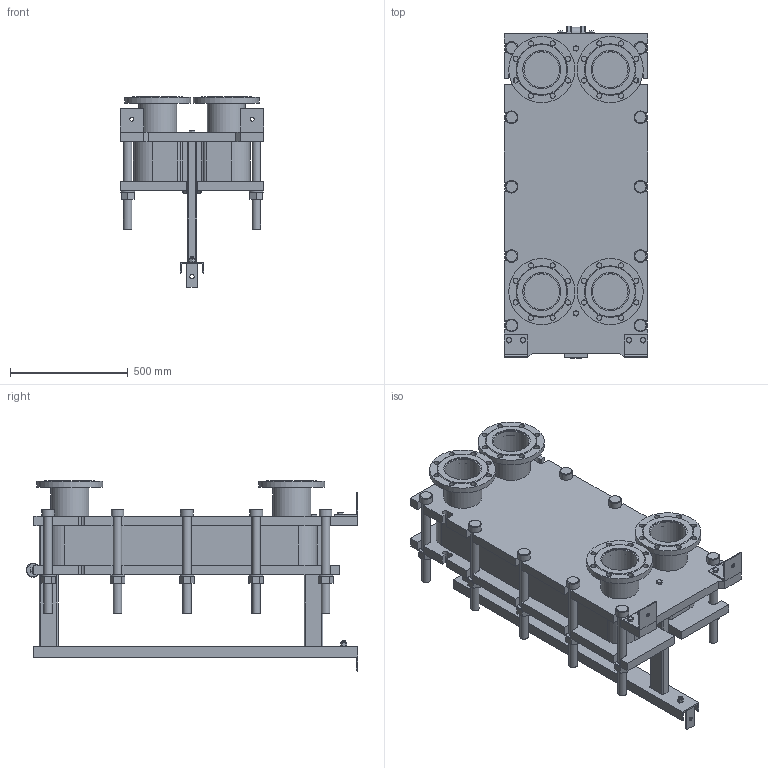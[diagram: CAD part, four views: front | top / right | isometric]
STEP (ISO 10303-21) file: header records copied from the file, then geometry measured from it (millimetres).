
FILE_DESCRIPTION(/* description */ (''),/* implementation_level */ '2;1');
FILE_NAME(/* name */ 'C:\Users\zhuro\Desktop\ENCO\TO\ЭН-041\ЭН-0,5-041-49-1.stp',/* time_stamp */ '2022-06-06T10:52:52+03:00',/* author */ ('zhuro'),/* organization */ (''),/* preprocessor_version */ 'ST-DEVELOPER v18.1',/* originating_system */ 'Autodesk Inventor 2022',/* authorisation */ '');
FILE_SCHEMA (('AUTOMOTIVE_DESIGN { 1 0 10303 214 3 1 1 }'));
Length unit declared in the file: millimetre
Products named in the file (1): ЭН-0,5-041-49-1
Bounding box: 610 x 1406.5 x 807.5 mm (x, y, z)
Volume: 171969273.4 mm3; surface area: 7900002.9 mm2
Topology: 52 solids, 52 shells, 711 faces, 1696 edges, 1094 vertices
Faces by surface type: plane 487, cylinder 177, cone 41, torus 6
Full cylindrical faces by diameter (mm): 8 x4, 10 x2, 16 x8, 18 x3, 22 x32, 36 x24, 50 x1, 54 x10, 60 x12, 151 x4, 161 x8, 280 x4
Entity records: 22667 total; most frequent: CARTESIAN_POINT 5230, DIRECTION 3644, ORIENTED_EDGE 3392, EDGE_CURVE 1696, AXIS2_PLACEMENT_3D 1272, LINE 1100, VECTOR 1100, VERTEX_POINT 1094
